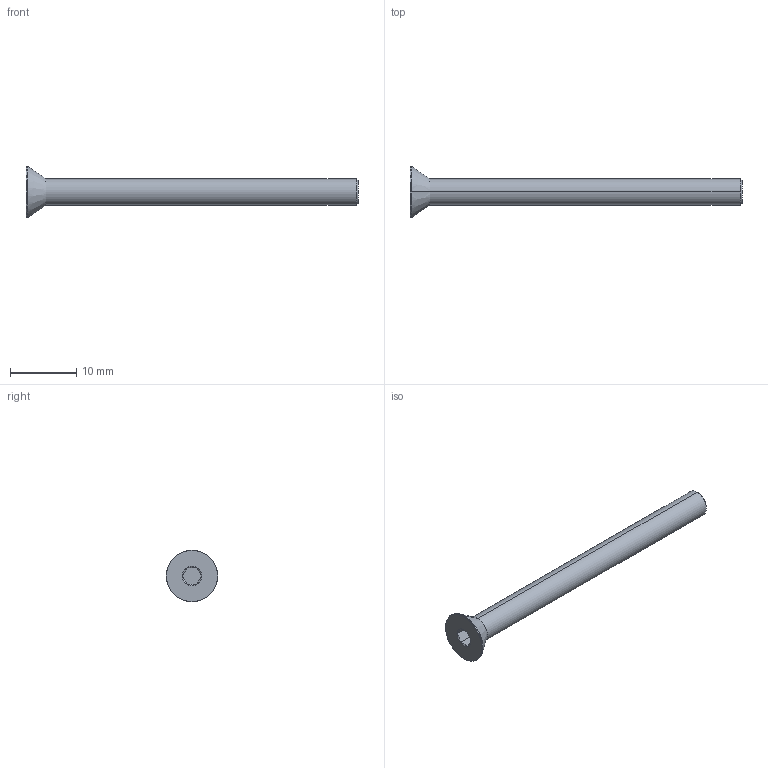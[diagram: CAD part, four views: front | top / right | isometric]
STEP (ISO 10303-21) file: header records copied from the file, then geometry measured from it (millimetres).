
FILE_DESCRIPTION (( 'STEP AP203' ), '1' );
FILE_NAME ('LGDB-304-M4x50.STEP', '2026-08-12T01:24:47', ( '' ), ( '' ), 'SwSTEP 2.0', 'SolidWorks 2020', '' );
FILE_SCHEMA (( 'CONFIG_CONTROL_DESIGN' ));
Length unit declared in the file: millimetre
Products named in the file (1): LGDB-304-M4x50
Bounding box: 50 x 7.8 x 7.8 mm (x, y, z)
Volume: 667.9 mm3; surface area: 732.5 mm2
Topology: 1 solids, 1 shells, 28 faces, 53 edges, 28 vertices
Faces by surface type: cone 11, plane 9, torus 4, cylinder 4
Entity records: 792 total; most frequent: CARTESIAN_POINT 153, DIRECTION 129, ORIENTED_EDGE 106, AXIS2_PLACEMENT_3D 54, EDGE_CURVE 53, EDGE_LOOP 29, FACE_OUTER_BOUND 28, VERTEX_POINT 28
